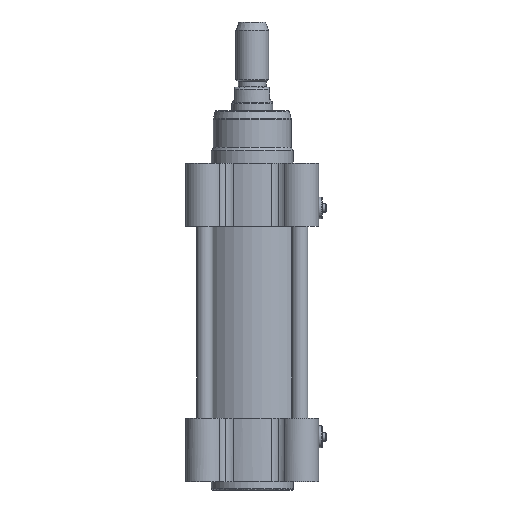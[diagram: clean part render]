
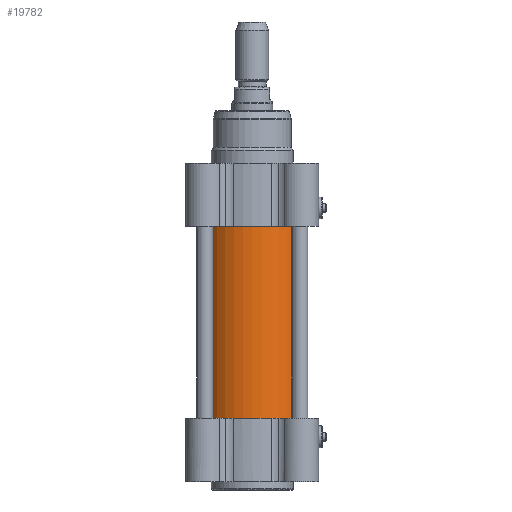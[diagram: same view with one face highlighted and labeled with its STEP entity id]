
A CAD part, front view. The second image highlights one B-rep face of the part: STEP entity #19782.
In plain terms, the highlighted cylindrical face has radius 26.5 mm (diameter 53 mm), a partial arc.
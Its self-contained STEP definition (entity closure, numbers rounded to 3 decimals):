
#443 = VERTEX_POINT ( 'NONE', #21550 ) ;
#454 = ORIENTED_EDGE ( 'NONE', *, *, #20458, .T. ) ;
#509 = CARTESIAN_POINT ( 'NONE',  ( 26.5, 0., 0. ) ) ;
#1670 = EDGE_LOOP ( 'NONE', ( #19243, #454, #9816, #3793 ) ) ;
#2865 = CARTESIAN_POINT ( 'NONE',  ( -26.5, 0., 0. ) ) ;
#2980 = DIRECTION ( 'NONE',  ( 0., 0., 1. ) ) ;
#3793 = ORIENTED_EDGE ( 'NONE', *, *, #25806, .F. ) ;
#4002 = DIRECTION ( 'NONE',  ( -1., 0., 0. ) ) ;
#5024 = DIRECTION ( 'NONE',  ( -1., 0., 0. ) ) ;
#6297 = CARTESIAN_POINT ( 'NONE',  ( -26.5, 0., 93.8 ) ) ;
#7968 = DIRECTION ( 'NONE',  ( -1., 0., 0. ) ) ;
#8611 = LINE ( 'NONE', #2865, #9542 ) ;
#9535 = CARTESIAN_POINT ( 'NONE',  ( 0., 0., 0.2 ) ) ;
#9542 = VECTOR ( 'NONE', #15028, 1000. ) ;
#9685 = CARTESIAN_POINT ( 'NONE',  ( 26.5, 0., 0.2 ) ) ;
#9816 = ORIENTED_EDGE ( 'NONE', *, *, #16127, .F. ) ;
#9870 = CYLINDRICAL_SURFACE ( 'NONE', #17786, 26.5 ) ;
#13256 = CIRCLE ( 'NONE', #16733, 26.5 ) ;
#13361 = DIRECTION ( 'NONE',  ( 0., 0., -1. ) ) ;
#14384 = CARTESIAN_POINT ( 'NONE',  ( 0., 0., 0. ) ) ;
#15028 = DIRECTION ( 'NONE',  ( 0., 0., 1. ) ) ;
#15280 = LINE ( 'NONE', #509, #16408 ) ;
#16127 = EDGE_CURVE ( 'NONE', #19997, #20949, #13256, .T. ) ;
#16408 = VECTOR ( 'NONE', #2980, 1000. ) ;
#16733 = AXIS2_PLACEMENT_3D ( 'NONE', #22634, #27020, #4002 ) ;
#17268 = CIRCLE ( 'NONE', #17699, 26.5 ) ;
#17699 = AXIS2_PLACEMENT_3D ( 'NONE', #9535, #13361, #5024 ) ;
#17786 = AXIS2_PLACEMENT_3D ( 'NONE', #14384, #20686, #7968 ) ;
#18744 = CARTESIAN_POINT ( 'NONE',  ( 26.5, 0., 93.8 ) ) ;
#19037 = VERTEX_POINT ( 'NONE', #9685 ) ;
#19243 = ORIENTED_EDGE ( 'NONE', *, *, #26301, .F. ) ;
#19782 = ADVANCED_FACE ( 'NONE', ( #26874 ), #9870, .T. ) ;
#19997 = VERTEX_POINT ( 'NONE', #6297 ) ;
#20458 = EDGE_CURVE ( 'NONE', #19037, #20949, #15280, .T. ) ;
#20686 = DIRECTION ( 'NONE',  ( 0., 0., 1. ) ) ;
#20949 = VERTEX_POINT ( 'NONE', #18744 ) ;
#21550 = CARTESIAN_POINT ( 'NONE',  ( -26.5, 0., 0.2 ) ) ;
#22634 = CARTESIAN_POINT ( 'NONE',  ( 0., 0., 93.8 ) ) ;
#25806 = EDGE_CURVE ( 'NONE', #443, #19997, #8611, .T. ) ;
#26301 = EDGE_CURVE ( 'NONE', #19037, #443, #17268, .T. ) ;
#26874 = FACE_OUTER_BOUND ( 'NONE', #1670, .T. ) ;
#27020 = DIRECTION ( 'NONE',  ( 0., 0., 1. ) ) ;
